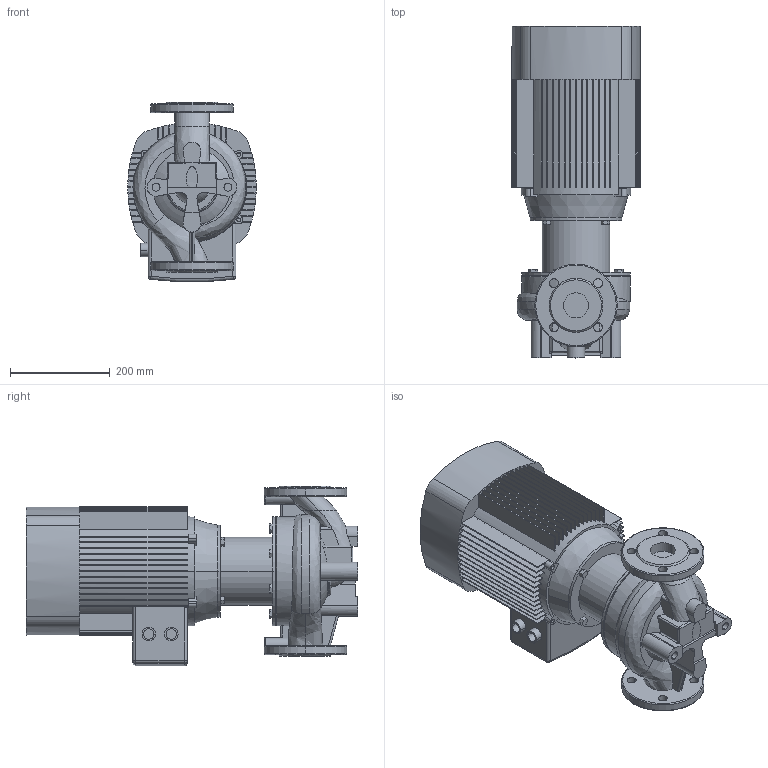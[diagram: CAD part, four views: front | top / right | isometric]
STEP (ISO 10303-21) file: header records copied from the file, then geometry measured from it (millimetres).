
FILE_DESCRIPTION (( 'STEP AP203' ), '1' );
FILE_NAME ('TD50-35G_2.STEP', '2022-05-02T14:56:32', ( '' ), ( '' ), 'SwSTEP 2.0', 'SolidWorks 2019', '' );
FILE_SCHEMA (( 'CONFIG_CONTROL_DESIGN' ));
Length unit declared in the file: millimetre
Products named in the file (4): Pr_ch 50_TD50-35G_2; TD50-35G_2; Fon_50_TD50-35G_2; ED_B14_YE2-132S1-2 (5.5)
Assembly tree (3 placements, depth 2):
  TD50-35G_2
    Pr_ch 50_TD50-35G_2
    Fon_50_TD50-35G_2
    ED_B14_YE2-132S1-2 (5.5)
Bounding box: 257 x 664 x 359.37 mm (x, y, z)
Volume: 24430968.3 mm3; surface area: 1436484.3 mm2
Topology: 3 solids, 3 shells, 651 faces, 1771 edges, 1161 vertices
Faces by surface type: plane 426, cylinder 157, bspline 27, torus 24, cone 11, sphere 6
Entity records: 26374 total; most frequent: CARTESIAN_POINT 9374, ORIENTED_EDGE 3538, DIRECTION 3434, EDGE_CURVE 1769, AXIS2_PLACEMENT_3D 1210, VERTEX_POINT 1161, VECTOR 1014, LINE 1014
